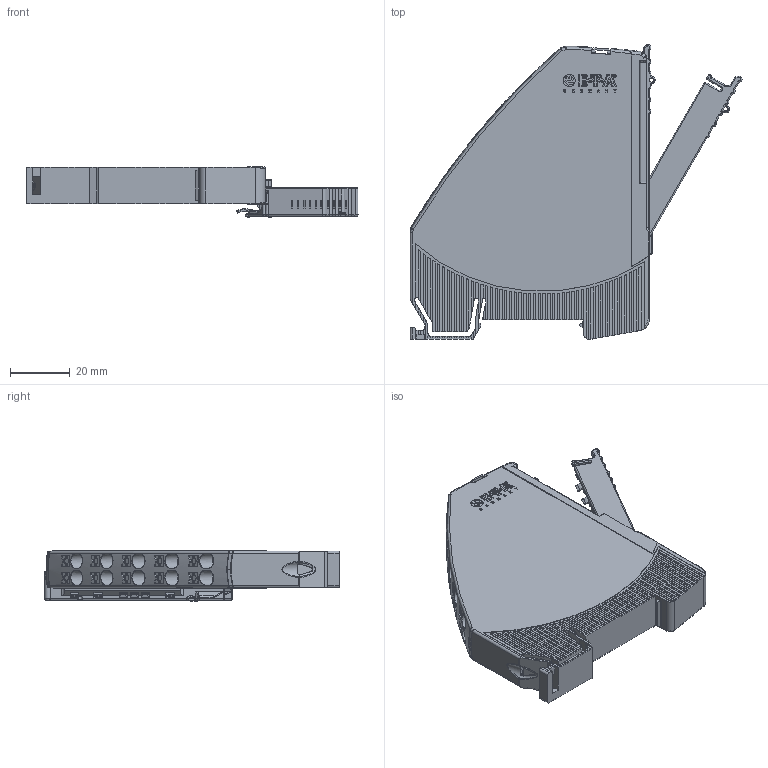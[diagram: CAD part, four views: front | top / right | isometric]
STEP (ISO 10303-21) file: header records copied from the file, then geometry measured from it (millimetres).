
FILE_DESCRIPTION((''),'2;1');
FILE_NAME('T-PM12-T0X-00-LOAD_ASM','2017-06-08T',('hroth'),(''),'PRO/ENGINEER BY PARAMETRIC TECHNOLOGY CORPORATION, 2014200','PRO/ENGINEER BY PARAMETRIC TECHNOLOGY CORPORATION, 2014200','');
FILE_SCHEMA(('AUTOMOTIVE_DESIGN { 1 0 10303 214 1 1 1 1 }'));
Products named in the file (3): T-PM12-T0X-LOAD_GEH; T-REX12-TXX_HEB-SI2; T-PM12-T0X-00-LOAD_ASM
Assembly tree (3 placements, depth 2):
  T-PM12-T0X-00-LOAD_ASM
    T-PM12-T0X-LOAD_GEH
    T-REX12-TXX_HEB-SI2  x2
Bounding box: 110.9 x 98.5 x 16.9 mm (x, y, z)
Volume: 71932.7 mm3; surface area: 28213.4 mm2
Topology: 3 solids, 3 shells, 2700 faces, 7443 edges, 4821 vertices
Faces by surface type: plane 1676, cylinder 689, bspline 141, torus 117, extrusion 41, cone 20, sphere 16
Entity records: 90937 total; most frequent: CARTESIAN_POINT 27081, ORIENTED_EDGE 12378, DIRECTION 11148, EDGE_CURVE 6189, VECTOR 4334, LINE 4293, VERTEX_POINT 4052, AXIS2_PLACEMENT_3D 3407
